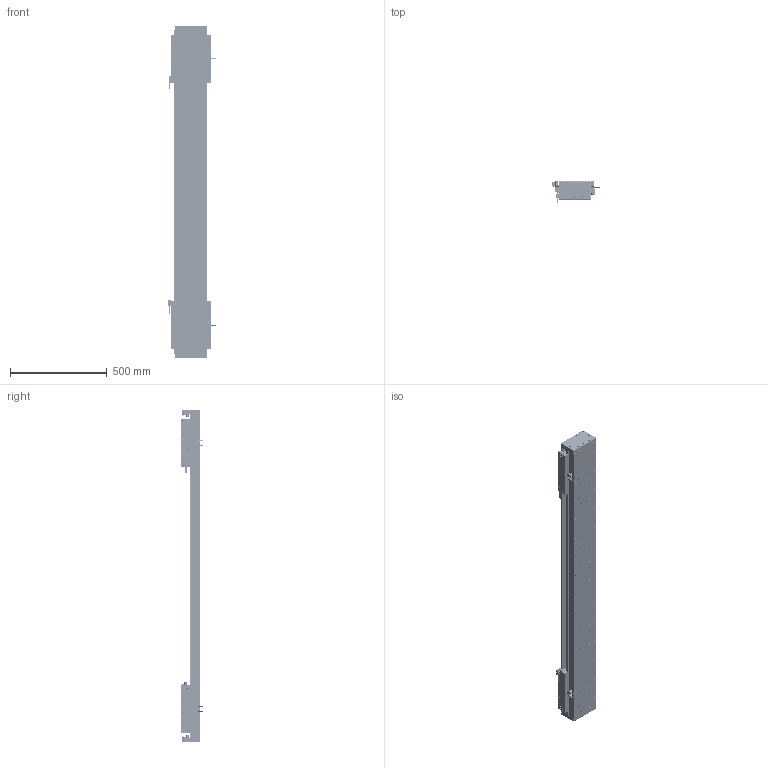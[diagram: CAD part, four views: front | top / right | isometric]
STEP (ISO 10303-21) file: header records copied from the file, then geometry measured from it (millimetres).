
FILE_DESCRIPTION (( 'STEP AP203' ), '1' );
FILE_NAME ('DA-C165-2-C3-T1100-C010-0.2 直线电机.STEP', '2023-06-13T09:26:21', ( '微软用户' ), ( '微软中国' ), 'SwSTEP 2.0', 'SolidWorks 2019', '' );
FILE_SCHEMA (( 'CONFIG_CONTROL_DESIGN' ));
Length unit declared in the file: millimetre
Products named in the file (22): 复件 DA165-GD-1860-002-00 钢带盖板^复件 CU165钢带组件_DA-C165-C3-T-C010-0.2-N 直线电机; 葩璃 DA95-GT-T-00^IU-CU165-L 菁釱絳寢_T; 复件 CU165钢带组件^DA-C165-C3-T-C010-0.2-N 直线电机; 珨极趙賑雄怢啣C3-wf; 复件 DKW-HXJ-JY-00 缓冲橡胶^DA-C165-C3-T-C010-0.2-N 直线电机; 葩璃 PM-T45^DA-C165-C3-T-C010-0.2-N 眻盄萇儂; 葩璃 CKM03-W075-C1C2-TP-3.0^DA-C165-C3-T-C010-0.2-N 眻盄萇儂; 复件 DA165-GDLK-00 钢带拉块^复件 CU165钢带组件_DA-C165-C3-T-C010-0.2-N 直线电机; 复件 DA165-GD-DG-H-00 端盖^复件 CU165钢带组件_DA-C165-C3-T-C010-0.2-N 直线电机; DA-C165-2-C3-T1100-C010-0.2 眻盄萇儂; 葩璃 CKM01-W075-TRL^DA-C165-C3-T-C010-0.2-N 眻盄萇儂; 复件 XD-U-02L 磁栅尺^DA-C165-C3-T-C010-0.2-N 直线电机_T; IU-CU165-L 菁釱絳寢; 复件 DMA-010-0.2 读数头^DA-C165-C3-T-C010-0.2-N 直线电机; 复件 DA165-GYP-00 光电感应片^DA-C165-C3-T-C010-0.2-N 直线电机; 复件 DA165-GDYK-00 钢带压块^复件 CU165钢带组件_DA-C165-C3-T-C010-0.2-N 直线电机; 复件 DA126-GYP-ZJ-00 中间光电感应片^DA-C165-C3-T-C010-0.2-N 直线电机; 复件 66338-1000-006-00 光电感应块^DA-C165-C3-T-C010-0.2-N 直线电机; 葩璃 PM-Y45^DA-C165-C3-T-C010-0.2-N 眻盄萇儂; 复件 六角薄螺母 M3^DA-C165-C3-T-C010-0.2-N 直线电机_GB_FASTENER_NUT_STNAB M3-C; 复件 CU165 底座^IU-CU165-L 底座导轨_L1680; 复件 DA95-HXJ-00 缓冲橡胶^DA-C165-C3-T-C010-0.2-N 直线电机
Assembly tree (45 placements, depth 3):
  DA-C165-2-C3-T1100-C010-0.2 眻盄萇儂
    IU-CU165-L 菁釱絳寢
      复件 CU165 底座^IU-CU165-L 底座导轨_L1680
      葩璃 DA95-GT-T-00^IU-CU165-L 菁釱絳寢_T  x4
    复件 XD-U-02L 磁栅尺^DA-C165-C3-T-C010-0.2-N 直线电机_T
    葩璃 PM-T45^DA-C165-C3-T-C010-0.2-N 眻盄萇儂  x4
    葩璃 CKM01-W075-TRL^DA-C165-C3-T-C010-0.2-N 眻盄萇儂
    复件 CU165钢带组件^DA-C165-C3-T-C010-0.2-N 直线电机
      复件 DA165-GD-DG-H-00 端盖^复件 CU165钢带组件_DA-C165-C3-T-C010-0.2-N 直线电机  x2
      复件 DA165-GDYK-00 钢带压块^复件 CU165钢带组件_DA-C165-C3-T-C010-0.2-N 直线电机  x2
      复件 DA165-GD-1860-002-00 钢带盖板^复件 CU165钢带组件_DA-C165-C3-T-C010-0.2-N 直线电机
      复件 DA165-GDLK-00 钢带拉块^复件 CU165钢带组件_DA-C165-C3-T-C010-0.2-N 直线电机  x2
    复件 DA95-HXJ-00 缓冲橡胶^DA-C165-C3-T-C010-0.2-N 直线电机  x4
    复件 DMA-010-0.2 读数头^DA-C165-C3-T-C010-0.2-N 直线电机  x2
    复件 DA165-GYP-00 光电感应片^DA-C165-C3-T-C010-0.2-N 直线电机  x2
    复件 66338-1000-006-00 光电感应块^DA-C165-C3-T-C010-0.2-N 直线电机
    葩璃 PM-Y45^DA-C165-C3-T-C010-0.2-N 眻盄萇儂
    复件 DA126-GYP-ZJ-00 中间光电感应片^DA-C165-C3-T-C010-0.2-N 直线电机
    葩璃 CKM03-W075-C1C2-TP-3.0^DA-C165-C3-T-C010-0.2-N 眻盄萇儂  x2
    复件 DKW-HXJ-JY-00 缓冲橡胶^DA-C165-C3-T-C010-0.2-N 直线电机  x2
    复件 六角薄螺母 M3^DA-C165-C3-T-C010-0.2-N 直线电机_GB_FASTENER_NUT_STNAB M3-C  x8
    珨极趙賑雄怢啣C3-wf  x2
Bounding box: 247.2 x 111.45 x 1720 mm (x, y, z)
Volume: 12951421.7 mm3; surface area: 3472647.4 mm2
Topology: 121 solids, 221 shells, 6101 faces, 16162 edges, 9968 vertices
Faces by surface type: cylinder 3046, plane 1987, cone 980, torus 80, sphere 8
Entity records: 125004 total; most frequent: CARTESIAN_POINT 31007, DIRECTION 19158, ORIENTED_EDGE 18908, EDGE_CURVE 9454, AXIS2_PLACEMENT_3D 7267, VERTEX_POINT 6122, VECTOR 4624, LINE 4624
